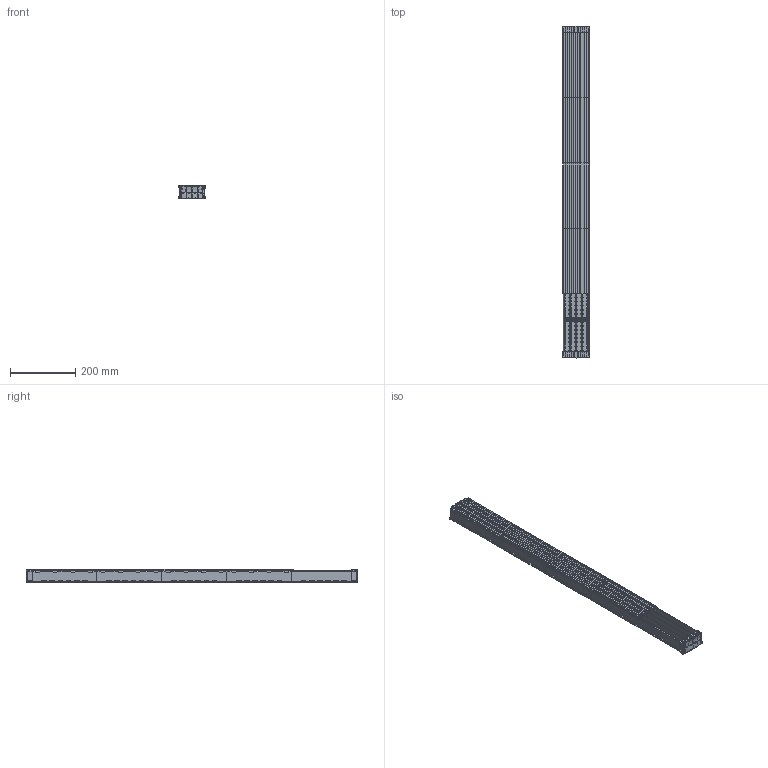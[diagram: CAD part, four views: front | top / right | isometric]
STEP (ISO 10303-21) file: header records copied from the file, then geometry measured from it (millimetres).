
FILE_DESCRIPTION (( 'STEP AP214' ), '1' );
FILE_NAME ('04111.STEP', '2014-04-23T08:20:03', ( '' ), ( '' ), 'SwSTEP 2.0', 'SolidWorks 2014', '' );
FILE_SCHEMA (( 'AUTOMOTIVE_DESIGN' ));
Length unit declared in the file: millimetre
Products named in the file (4): 04111; 469400000-4.2; 469400800_4_2; 469400700_3_2
Assembly tree (11 placements, depth 2):
  04111
    469400700_3_2  x4
    469400800_4_2  x2
    469400000-4.2  x5
Bounding box: 83.8 x 1018.65 x 42.67 mm (x, y, z)
Volume: 726962.8 mm3; surface area: 816345.7 mm2
Topology: 11 solids, 11 shells, 9305 faces, 26749 edges, 17665 vertices
Faces by surface type: plane 5378, cylinder 3473, bspline 368, cone 80, torus 6
Entity records: 86311 total; most frequent: CARTESIAN_POINT 34457, ORIENTED_EDGE 12164, DIRECTION 8747, EDGE_CURVE 6082, VERTEX_POINT 4017, LINE 3637, VECTOR 3637, AXIS2_PLACEMENT_3D 2555
